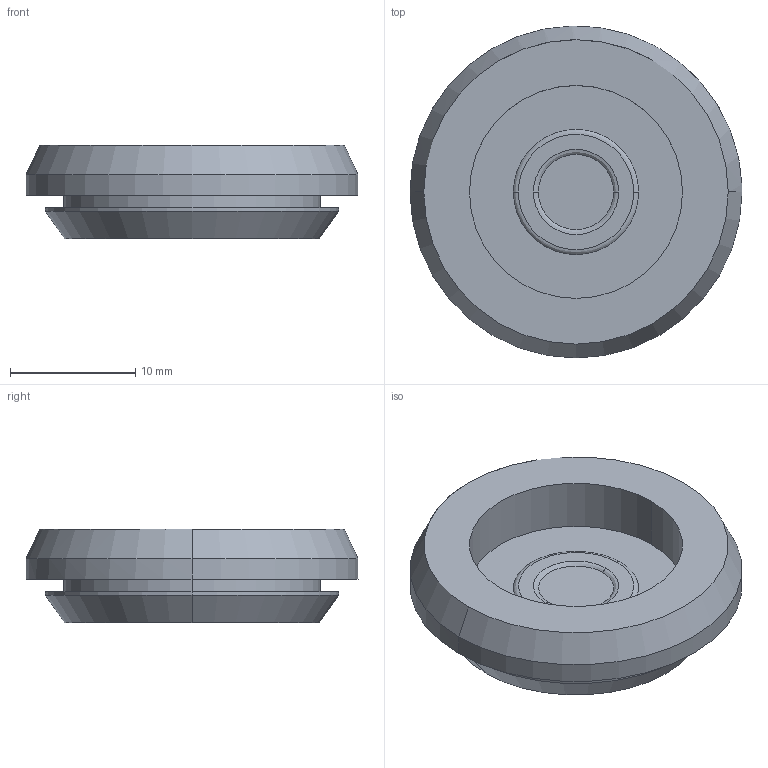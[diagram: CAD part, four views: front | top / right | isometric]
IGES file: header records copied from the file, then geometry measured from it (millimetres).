
Global section: file name: C:\CoreTechnologie\3D-In/01Z-Y2W-07.igs; native system: CT CoreTechnologie 3D Evolution; preprocessor: 2006; date: 1200114.082433; units: millimetre
Bounding box: 26.5 x 26.5 x 7.5 mm (x, y, z)
Volume: 1974.9 mm3; surface area: 2067.5 mm2
Topology: 1 solids, 1 shells, 32 faces, 76 edges, 54 vertices
Faces by surface type: revolution 18, plane 10, bspline 4
